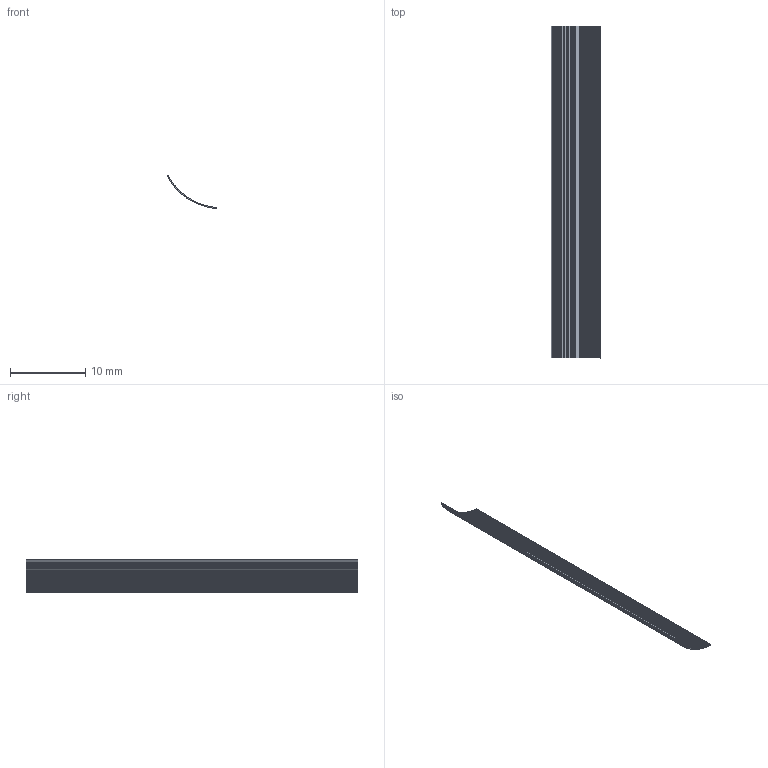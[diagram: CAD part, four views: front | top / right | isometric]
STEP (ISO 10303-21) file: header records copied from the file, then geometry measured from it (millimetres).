
FILE_DESCRIPTION(('Open CASCADE Model'),'2;1');
FILE_NAME('Open CASCADE Shape Model','2026-10-04T01:02:32',('Author'),( 'Open CASCADE'),'Open CASCADE STEP processor 8.0','Open CASCADE 8.0' ,'Unknown');
FILE_SCHEMA(('AUTOMOTIVE_DESIGN { 1 0 10303 214 1 1 1 1 }'));
Length unit declared in the file: millimetre
Products named in the file (1): Open CASCADE STEP translator 8.0 283
Bounding box: 6.6 x 44 x 4.39 mm (x, y, z)
Volume: 53.7 mm3; surface area: 732.3 mm2
Topology: 1 solids, 1 shells, 120 faces, 354 edges, 236 vertices
Faces by surface type: plane 120
Entity records: 8530 total; most frequent: CARTESIAN_POINT 1419, DIRECTION 1304, LINE 1062, VECTOR 1062, ORIENTED_EDGE 708, PCURVE 708, DEFINITIONAL_REPRESENTATION 708, EDGE_CURVE 354
